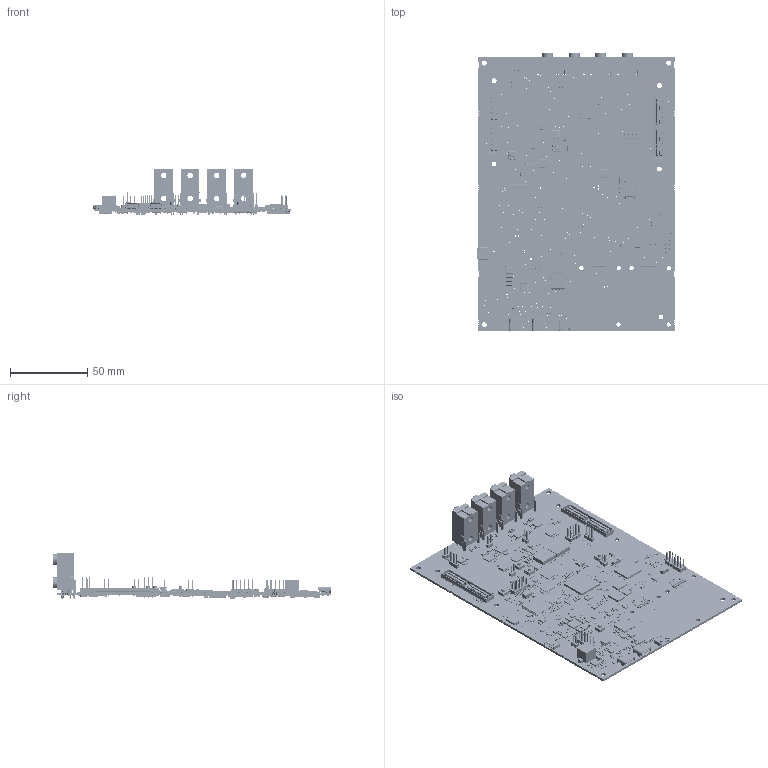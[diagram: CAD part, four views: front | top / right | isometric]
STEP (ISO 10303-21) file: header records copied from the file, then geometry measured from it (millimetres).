
FILE_DESCRIPTION (( 'STEP AP214' ), '1' );
FILE_NAME ('proc190a_pcb_12-03-2025.STEP', '2025-03-12T06:59:31', ( '' ), ( '' ), 'SwSTEP 2.0', 'SolidWorks 2023', '' );
FILE_SCHEMA (( 'AUTOMOTIVE_DESIGN' ));
Length unit declared in the file: millimetre
Products named in the file (117): X2SON3_ESD122DMX_30X40_0-4; EMIFIL_BLM18K_0603; USON10_TPD4E05U_40X100_0-6; HDR_2X5_PEC05DAAN_S_T_8-6; TVSOP14_15-74_180X150_1-2; SOT553-5_0-6; TO_SOT23-123; proc190a_pcb; IND4_DLW21H_90X60_SMD_1-4; VQFN-HR36-35_TPS65224_240X200_1; VSSOP8_19-68_85X95; MSOP10_19-68_120X120_1-1; SC70-5; HDR_6X2_61301221121_P_S_T_8-6; HDR_2X4_90131-07_S_T_9-5; CAP1210_2-75; SOIC8_1-8; IND_XAL8080_330X350_SMD_8; TQFP128_15-74_550X550_1-2; HDR_1X3_87224-3_S_T_10-8; SOT23-5_1-5; UQFN16_TMUX1574_70X100_0-6; SW4_49-99_150X230_SMD_2-7; WQFN24_19-68_160X160; CAP1206_1-75; CAP0603_1; TSSOP20_25-59_260X180; SON6_25-59_85X85; CAP0402_1; X2SON8_15-74_70X50; VSONHR6_TPS62826_60X60_1; SOT23-6; LED_150040GS73220_40X20_SMD_0-4; WFQFN24_CDCE6214-Q1_160X160_0-9; BGA361_31-49_630X630_1-5; SW4_100X216_200X200_SMD_4-2; SON6_SN74LVC2G17_40X60_0-6; SW3_CAS-120TA_215X100_SMD; CON_AV6_STX-4235-3-3_S_R_T_26; proc190a_pcb_12-03-2025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
Assembly tree (1539 placements, depth 4):
  proc190a_pcb_12-03-2025
    proc190a_pcb
    VFBGA153_19-68_460X520_1-3
    SW3_CAS-120TA_215X100_SMD
    RES0603_0-5  x2
    CAP0201_0-5  x284
    WQFN24_19-68_160X160
    QFN32_19-68_200X200_0-8_EP3-6  x2
    IND0806  x2
    CON_AV6_STX-4235-3-3_S_R_T_26  x4
    VSSOP8_19-68_85X95
    XTAL4_ABMM_280X200_SMD_1-3
    WFQFN24_CDCE6214-Q1_160X160_0-9
    EMIFIL_BLM18P_0603_0-8  x2
    VSON4_LMK6CE_80X100_SMD_1
    TSSOP8_25-59_125X180_1-2  x2
    QFN24_TAD5212IRGER_160X160_1  x4
    UQFN10_19-68_80X60_0-6
    SOT23-6
    SON6_19-68_40X60_PB_0-6
    TQFP128_15-74_550X550_1-2
    SC70-5_1-1  x2
    TVSOP14_15-74_180X150_1-2
    SW4_49-99_150X230_SMD_2-7
    HDR_2X10_FTR-110-51-D-06_S_S_8-7
    VSONHR6_TPS62826_60X60_1
    IND0806_1-2
    SON6_25-59_85X85
    XTAL_ABM3_205X130_SMD_1-4
    LQFP64_19-68_390X390_1-6
    MSOP8_25-59_125X125_1-1
    SC70-6_1-1
    VQFN-HR36-35_TPS65224_240X200_1
    DIO_SOT23_123
    IND1210_1-2  x4
    RES_CST0612_0612-4_0-9
    CAP1210_2-75  x2
    MSOP10_19-68_120X120_1-1  x7
    DSBGA12_15-74_60X70_0-4  x7
    X2SON3_ESD122DMX_30X40_0-4
    IND4_DLW21H_90X60_SMD_1-4
    DIO_DFN0201_0-4  x4
    CON_USBC24_2012670_S_R_S_3-9  x2
    HDR_2X5_PEC05DAAN_S_T_8-6
    VQFN56_TPS65987D_280X280_1
    SON6_CSD17313Q2_80X80  x2
    SW16_416131160808_460X230_SMD_2-7  x2
    QFN24_19-68_220X140_1  x2
    CAP0402_0-75  x150
    TSSOP14_25-59_205X180_1-2
    BGA361_31-49_630X630_1-5
    SW_TDA01H0S_240X90_SMD_2-3
    IND_XAL8080_330X350_SMD_8
    CAP1206_2  x5
    HDR_1X3_87224-3_S_T_10-8
    XTAL4_ABM3B_210X130_SMD
    HDR_2X4_90131-07_S_T_9-5
    USON10_TPD4E05U_40X100_0-6  x2
    USON10_TMUX1204_40X100_0-6  x4
    SOT23-14_1-1
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Bounding box: 127.6 x 180.6 x 30.41 mm (x, y, z)
Volume: 54829.3 mm3; surface area: 83695.6 mm2
Topology: 2741 solids, 3179 shells, 55506 faces, 150872 edges, 100569 vertices
Faces by surface type: plane 44335, cylinder 9307, bspline 1560, cone 172, sphere 79, torus 53
Full cylindrical faces by diameter (mm): 0.074 x3, 0.099 x8, 0.1 x5, 0.15 x5, 0.18 x1, 0.199 x5, 0.2 x7, 0.201 x6, 0.203 x2913, 0.23 x4, 0.3 x6, 0.31 x1, 0.345 x1, 0.5 x1, 0.559 x4, 0.562 x1, 0.578 x2, 0.6 x4, 0.61 x8, 0.813 x4, 0.864 x50, 0.889 x4, 0.914 x3, 1 x1, 1.016 x37, 1.118 x23, 1.159 x47, 1.524 x24, 1.981 x8, 2.4 x4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
Entity records: 912678 total; most frequent: CARTESIAN_POINT 168565, DIRECTION 108703, ORIENTED_EDGE 107902, EDGE_CURVE 56993, VERTEX_POINT 39824, VECTOR 37331, LINE 37331, AXIS2_PLACEMENT_3D 35686
